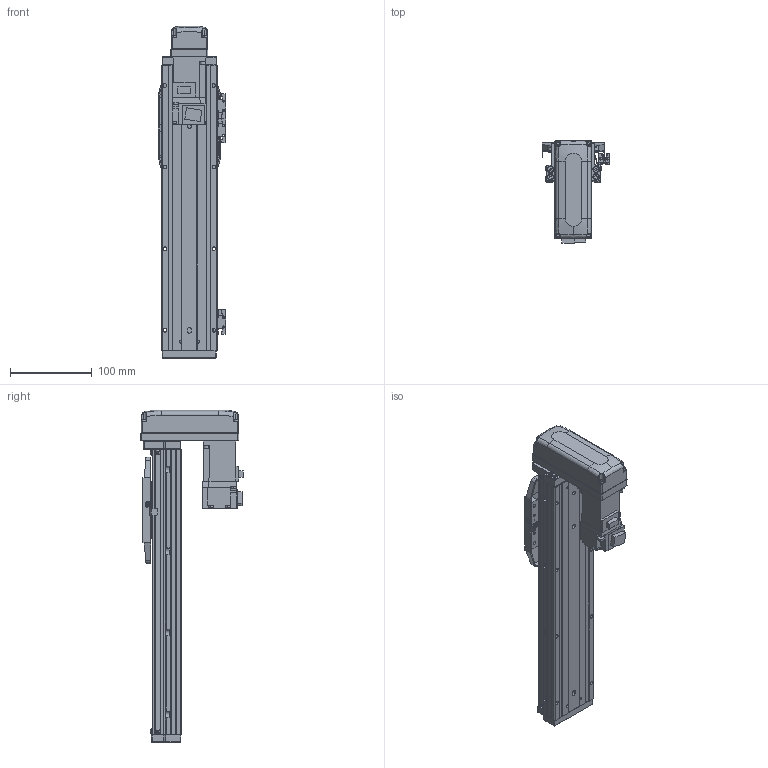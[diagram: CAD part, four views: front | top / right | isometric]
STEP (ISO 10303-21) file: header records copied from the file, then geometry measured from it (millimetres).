
FILE_DESCRIPTION (( 'STEP AP203' ), '1' );
FILE_NAME ('CTHA60-200-BM-M10-C4L.step', '2022-03-19T06:17:00', ( '微软用户' ), ( '微软中国' ), 'SwSTEP 2.0', 'SolidWorks 2020', '' );
FILE_SCHEMA (( 'CONFIG_CONTROL_DESIGN' ));
Length unit declared in the file: millimetre
Products named in the file (18): CTHA60-001_350; GBT 70.1-M4×16; CTHA60-031; CTHA60-004; GBT77-2000 M3×3; CTHA60-006-1; CTHA60-005; GBT 70.1-M3℅6; CTHA60-033; GB¨uT 70.2-M3¡Á6_M3¡Á6; GBT 70.3-M3℅6; CTHA60-200-BM-M10-C4L; EE_SX911P_R; CTHA60-016; CTHA60-017; HG-KR13（三菱）; CTHA60-021; CTHA60-002
Assembly tree (54 placements, depth 2):
  CTHA60-200-BM-M10-C4L
    CTHA60-001_350
    CTHA60-004
    CTHA60-005
    GB¨uT 70.2-M3¡Á6_M3¡Á6  x10
    EE_SX911P_R  x3
    CTHA60-017  x3
    CTHA60-021  x2
    GBT 70.1-M4×16  x10
    GBT77-2000 M3×3  x6
    GBT 70.1-M3℅6  x6
    GBT 70.3-M3℅6  x4
    CTHA60-016  x2
    HG-KR13（三菱）
    CTHA60-002
    CTHA60-031
    CTHA60-006-1
    CTHA60-033
Bounding box: 83.12 x 125.3 x 407 mm (x, y, z)
Volume: 836177.7 mm3; surface area: 268563.8 mm2
Topology: 56 solids, 56 shells, 2454 faces, 5869 edges, 3613 vertices
Faces by surface type: plane 1413, cylinder 559, cone 334, torus 92, bspline 32, sphere 24
Entity records: 43073 total; most frequent: CARTESIAN_POINT 8362, DIRECTION 6616, ORIENTED_EDGE 6546, EDGE_CURVE 3273, LINE 2316, VECTOR 2316, AXIS2_PLACEMENT_3D 2150, VERTEX_POINT 2072
